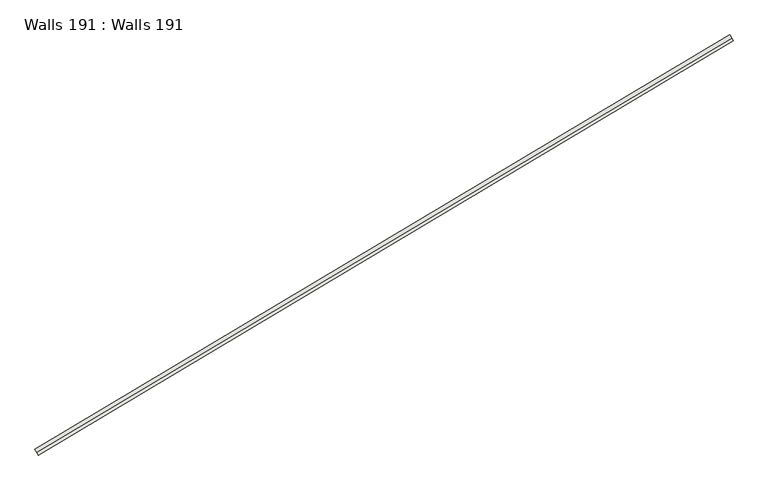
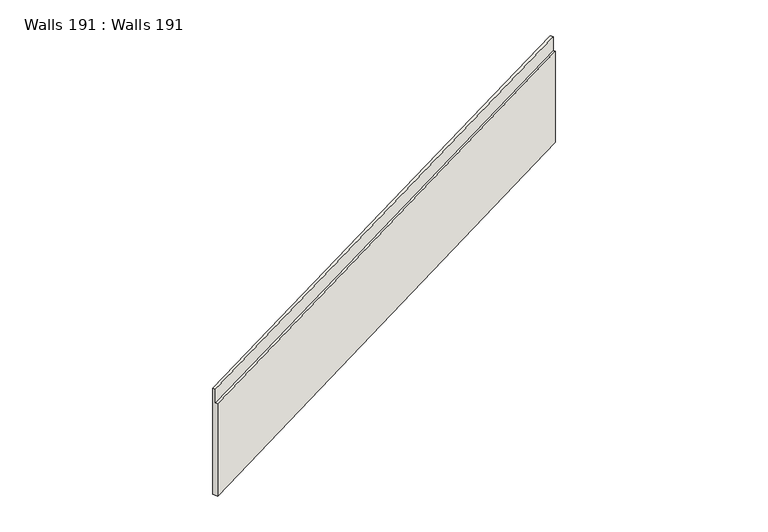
"""IFC4 building model written with IfcOpenShell, lengths in millimetres: wall geometry, Walls 191 : Walls 191."""

from ifc_helpers import new_model, si_unit, origin, place, context, project, spatial, faceted_brep, source, transform, mapped, element, save


def walls_191_walls_191_8306d305(model_context):
    return source(origin(), model_context, "Body", "Brep", [
        faceted_brep([(272956.2482016, 171643.1478171, 650560.0), (272956.2482016, 171643.1478171, 642890.0), (273135.6462029, 171342.6210975, 642890.0), (273135.6462029, 171342.6210975, 649560.0), (273058.7613452, 171471.418263, 649560.0), (273058.7613452, 171471.418263, 650560.0), (308160.8136823, 192658.3463751, 650940.0), (308263.3268259, 192486.6168211, 650940.0), (308263.3268259, 192486.6168211, 649940.0), (308340.2116836, 192357.8196556, 649940.0), (308340.2116836, 192357.8196556, 643380.0), (308160.8136823, 192658.3463751, 643380.0)], [[[0, 1, 2, 3, 4, 5]], [[6, 7, 8, 9, 10, 11]], [[6, 11, 1, 0]], [[11, 10, 2, 1]], [[10, 9, 3, 2]], [[9, 8, 4, 3]], [[8, 7, 5, 4]], [[7, 6, 0, 5]]]),
    ])


if __name__ == "__main__":
    model = new_model("IFC4")
    model_context = context("Model", 3, world=origin())
    ifc_project = project(units=[si_unit("LENGTHUNIT", "METRE", prefix="MILLI")], contexts=[model_context])
    site = spatial("IfcSite", under=ifc_project)
    building = spatial("IfcBuilding", under=site)
    placement = place(None, origin())
    walls_191_walls_191_shape = walls_191_walls_191_8306d305(model_context)
    element("IfcWall", 1, ObjectType="Walls 191 : Walls 191", at=placement, inside=building, context=model_context, shape_type="MappedRepresentation", body=[
        mapped(walls_191_walls_191_shape, transform((0.0, 0.0, 0.0), x_axis=(1.0, 0.0, 0.0), y_axis=(0.0, 1.0, 0.0), z_axis=(0.0, 0.0, 1.0))),
    ])
    save(model, "model.ifc")
